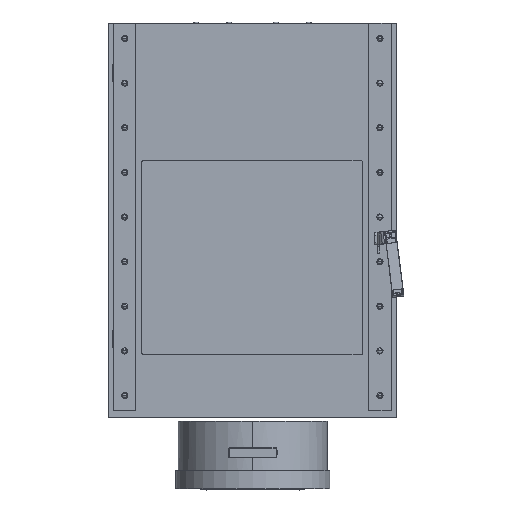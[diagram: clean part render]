
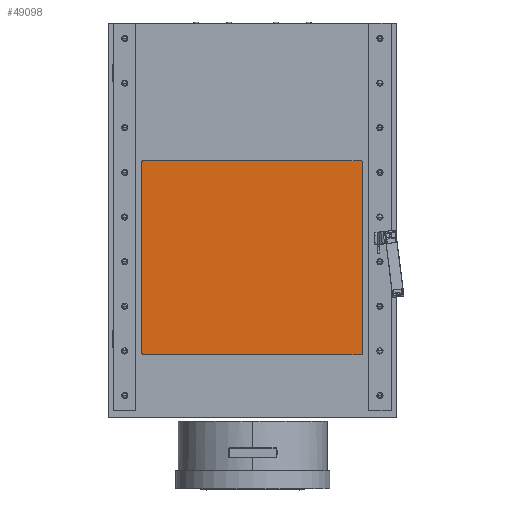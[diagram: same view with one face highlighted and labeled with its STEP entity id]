
A CAD part, top view. The second image highlights one B-rep face of the part: STEP entity #49098.
In plain terms, the highlighted planar face has unit normal (0, 0, 1).
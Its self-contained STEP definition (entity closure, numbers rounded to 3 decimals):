
#2383 = CARTESIAN_POINT ( 'NONE',  ( -264.154, 190.5, 367.536 ) ) ;
#2472 = CARTESIAN_POINT ( 'NONE',  ( 275.846, 190.5, 367.536 ) ) ;
#6616 = ORIENTED_EDGE ( 'NONE', *, *, #27865, .T. ) ;
#11974 = VERTEX_POINT ( 'NONE', #2472 ) ;
#12801 = CARTESIAN_POINT ( 'NONE',  ( -264.154, -288.5, 367.536 ) ) ;
#15397 = CARTESIAN_POINT ( 'NONE',  ( 275.846, -288.5, 367.536 ) ) ;
#15650 = EDGE_CURVE ( 'NONE', #24261, #11974, #50951, .T. ) ;
#18547 = DIRECTION ( 'NONE',  ( 0., -1., 0. ) ) ;
#19199 = DIRECTION ( 'NONE',  ( 0., 1., 0. ) ) ;
#23881 = DIRECTION ( 'NONE',  ( 0., 0., 1. ) ) ;
#24261 = VERTEX_POINT ( 'NONE', #15397 ) ;
#26759 = VECTOR ( 'NONE', #32412, 1000. ) ;
#27865 = EDGE_CURVE ( 'NONE', #58898, #24261, #61398, .T. ) ;
#32412 = DIRECTION ( 'NONE',  ( -1., 0., 0. ) ) ;
#35652 = CARTESIAN_POINT ( 'NONE',  ( 275.846, 190.5, 367.536 ) ) ;
#38827 = FACE_OUTER_BOUND ( 'NONE', #64533, .T. ) ;
#39595 = DIRECTION ( 'NONE',  ( 1., 0., 0. ) ) ;
#39807 = CARTESIAN_POINT ( 'NONE',  ( -264.154, 190.5, 367.536 ) ) ;
#45082 = ORIENTED_EDGE ( 'NONE', *, *, #52012, .T. ) ;
#47086 = VECTOR ( 'NONE', #39595, 1000. ) ;
#48554 = VECTOR ( 'NONE', #18547, 1000. ) ;
#49098 = ADVANCED_FACE ( 'NONE', ( #38827 ), #55990, .T. ) ;
#50951 = LINE ( 'NONE', #35652, #65351 ) ;
#52012 = EDGE_CURVE ( 'NONE', #67366, #58898, #62890, .T. ) ;
#55535 = CARTESIAN_POINT ( 'NONE',  ( -264.154, -288.5, 367.536 ) ) ;
#55990 = PLANE ( 'NONE',  #64199 ) ;
#58898 = VERTEX_POINT ( 'NONE', #12801 ) ;
#59729 = ORIENTED_EDGE ( 'NONE', *, *, #63174, .T. ) ;
#59821 = CARTESIAN_POINT ( 'NONE',  ( -264.154, 190.5, 367.536 ) ) ;
#61398 = LINE ( 'NONE', #55535, #47086 ) ;
#61445 = DIRECTION ( 'NONE',  ( 1., 0., 0. ) ) ;
#62890 = LINE ( 'NONE', #2383, #48554 ) ;
#63174 = EDGE_CURVE ( 'NONE', #11974, #67366, #67899, .T. ) ;
#64199 = AXIS2_PLACEMENT_3D ( 'NONE', #39807, #23881, #61445 ) ;
#64533 = EDGE_LOOP ( 'NONE', ( #45082, #6616, #64808, #59729 ) ) ;
#64564 = CARTESIAN_POINT ( 'NONE',  ( -264.154, 190.5, 367.536 ) ) ;
#64808 = ORIENTED_EDGE ( 'NONE', *, *, #15650, .T. ) ;
#65351 = VECTOR ( 'NONE', #19199, 1000. ) ;
#67366 = VERTEX_POINT ( 'NONE', #59821 ) ;
#67899 = LINE ( 'NONE', #64564, #26759 ) ;
